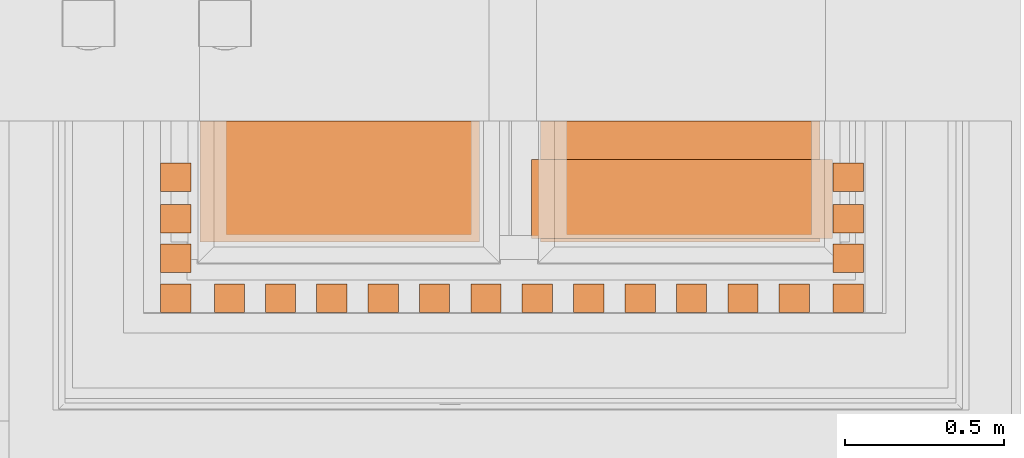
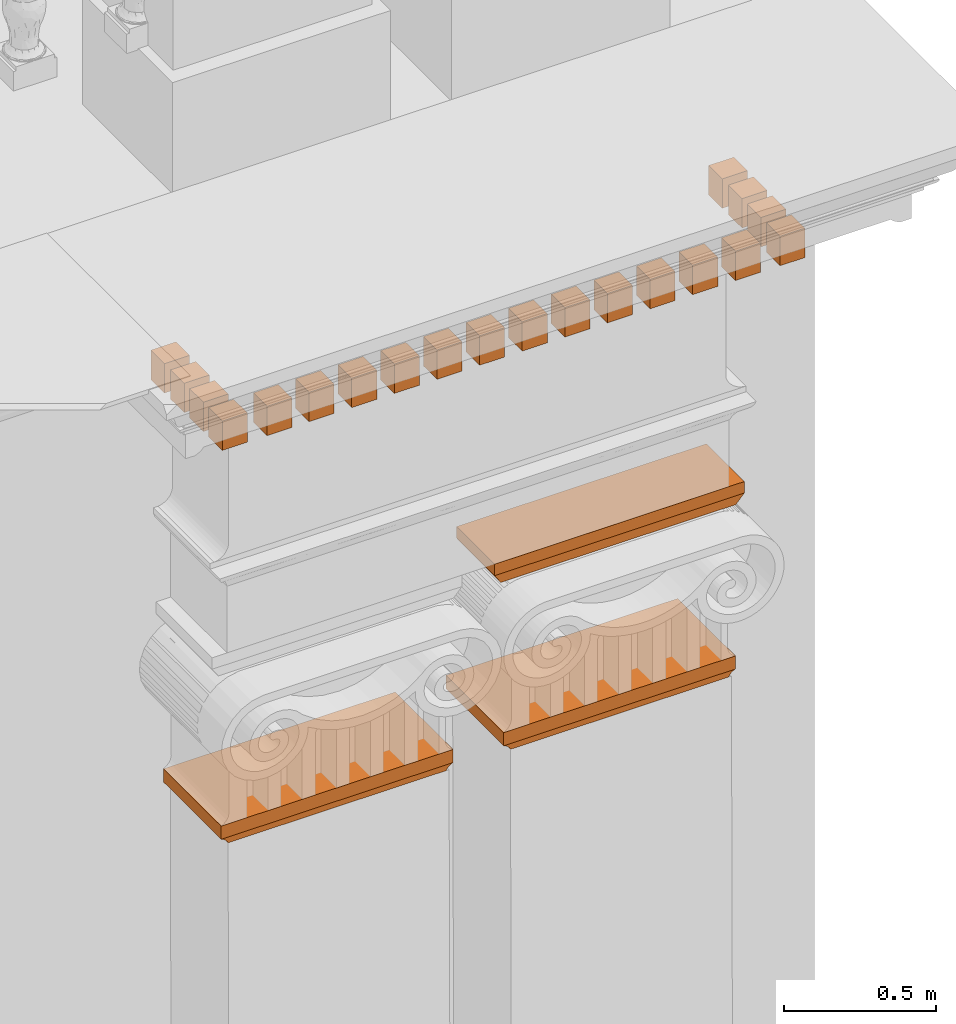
# One storey, part 17 of 44: 26 proxies.
"""IFC2X3 building model written with IfcOpenShell, lengths in metres."""

from ifc_helpers import new_model, entity, si_unit, converted_unit, derived_unit, direction, frame, frame_2d, origin, place, context, subcontext, project, spatial, polyline, circle_curve, parameter, trimmed, segment, composite_curve, rectangle, outline, extrude, material, element, save


model = new_model("IFC2X3")

# Units and contexts
model_context = context("Model", 3, precision=1e-05, world=origin(), true_north=direction((6.12303176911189e-17, 1.0)))
body_context = subcontext(model_context, "Body", "Model", "MODEL_VIEW")
ifc_project = project(units=[si_unit("LENGTHUNIT", "METRE"), si_unit("AREAUNIT", "SQUARE_METRE"), si_unit("VOLUMEUNIT", "CUBIC_METRE"), converted_unit("PLANEANGLEUNIT", "DEGREE", entity("IfcRatioMeasure", 0.0174532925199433), si_unit("PLANEANGLEUNIT", "RADIAN"), dimensions=[0, 0, 0, 0, 0, 0, 0]), si_unit("MASSUNIT", "GRAM", prefix="KILO"), derived_unit("MASSDENSITYUNIT", [(si_unit("MASSUNIT", "GRAM", prefix="KILO"), 1), (si_unit("LENGTHUNIT", "METRE"), -3)]), si_unit("TIMEUNIT", "SECOND"), si_unit("FREQUENCYUNIT", "HERTZ"), si_unit("THERMODYNAMICTEMPERATUREUNIT", "DEGREE_CELSIUS"), derived_unit("THERMALTRANSMITTANCEUNIT", [(si_unit("MASSUNIT", "GRAM", prefix="KILO"), 1), (si_unit("THERMODYNAMICTEMPERATUREUNIT", "KELVIN"), -1), (si_unit("TIMEUNIT", "SECOND"), -3)]), derived_unit("VOLUMETRICFLOWRATEUNIT", [(si_unit("LENGTHUNIT", "METRE"), 3), (si_unit("TIMEUNIT", "SECOND"), -1)]), si_unit("ELECTRICCURRENTUNIT", "AMPERE"), si_unit("ELECTRICVOLTAGEUNIT", "VOLT"), si_unit("POWERUNIT", "WATT"), si_unit("FORCEUNIT", "NEWTON", prefix="KILO"), si_unit("ILLUMINANCEUNIT", "LUX"), si_unit("LUMINOUSFLUXUNIT", "LUMEN"), si_unit("LUMINOUSINTENSITYUNIT", "CANDELA"), derived_unit("USERDEFINED", [(si_unit("MASSUNIT", "GRAM", prefix="KILO"), -1), (si_unit("LENGTHUNIT", "METRE"), -2), (si_unit("TIMEUNIT", "SECOND"), 3), (si_unit("LUMINOUSFLUXUNIT", "LUMEN"), 1)]), derived_unit("LINEARVELOCITYUNIT", [(si_unit("LENGTHUNIT", "METRE"), 1), (si_unit("TIMEUNIT", "SECOND"), -1)]), si_unit("PRESSUREUNIT", "PASCAL"), derived_unit("USERDEFINED", [(si_unit("LENGTHUNIT", "METRE"), -2), (si_unit("MASSUNIT", "GRAM", prefix="KILO"), 1), (si_unit("TIMEUNIT", "SECOND"), -2)])], contexts=[model_context])

# Site, building, storey
site_placement = place(None, origin())
site = spatial("IfcSite", under=ifc_project, at=site_placement, Name="Default", CompositionType="ELEMENT")
building_placement = place(site_placement, origin())
building = spatial("IfcBuilding", under=site, at=building_placement, CompositionType="ELEMENT")
storey_placement = place(building_placement, origin())
storey = spatial("IfcBuildingStorey", under=building, at=storey_placement, Name="Livello 1", CompositionType="ELEMENT", Elevation=0.0)

# Proxies
proxy_1_placement = place(storey_placement, frame((10.5087977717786, 0.883372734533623, 20.9489268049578)))
element("IfcBuildingElementProxy", 1, at=proxy_1_placement, inside=storey, Name="Stratigrafia", context=body_context, shape_type="SweptSolid", body=[
    extrude(outline(composite_curve([segment(polyline([(-0.123759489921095, 0.395360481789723), (0.101421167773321, -0.401671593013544)]), True, "CONTINUOUS"), segment(trimmed(circle_curve(frame_2d((0.096890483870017, -0.441245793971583), x_axis=(0.85216090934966, 0.523279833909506)), 0.0398327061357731), [parameter(1.99993278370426e-11)], [parameter(51.9163679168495)], True, "PARAMETER"), False, "CONTINUOUS"), segment(polyline([(0.130834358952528, -0.420402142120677), (-0.108496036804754, 0.426713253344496)]), True, "CONTINUOUS"), segment(trimmed(circle_curve(frame_2d((-0.148328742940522, 0.426713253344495), x_axis=(1.0, 0.0)), 0.039832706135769), [parameter(308.083632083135)], [parameter(359.999999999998)], True, "PARAMETER"), False, "CONTINUOUS")], self_intersect=False)), frame((0.441732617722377, 0.0, 0.0132016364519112), z_axis=(0.0, -1.0, 0.0), x_axis=(0.271881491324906, 0.0, 0.962330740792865)), (0.0, 0.0, -1.0), 0.38),
])
proxy_2_placement = place(storey_placement, frame((10.5103930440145, 0.883372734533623, 20.9737348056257)))
element("IfcBuildingElementProxy", 2, at=proxy_2_placement, inside=storey, Name="Stratigrafia", context=body_context, shape_type="SweptSolid", body=[
    extrude(rectangle(XDim=0.052818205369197, YDim=0.38, at=frame_2d((-1.2490009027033e-16, -2.16666962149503e-15), x_axis=(0.0, 1.0))), frame((0.0, 0.19, 0.0264091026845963), z_axis=(1.0, 0.0, 0.0), x_axis=(0.0, 1.0, 0.0)), (0.0, 0.0, 1.0), 0.880274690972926),
])
proxy_3_placement = place(storey_placement, frame((9.43692277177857, 0.883372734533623, 20.9489268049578)))
element("IfcBuildingElementProxy", 3, at=proxy_3_placement, inside=storey, Name="Stratigrafia", context=body_context, shape_type="SweptSolid", body=[
    extrude(outline(composite_curve([segment(polyline([(-0.123759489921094, 0.395360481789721), (0.101421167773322, -0.401671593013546)]), True, "CONTINUOUS"), segment(trimmed(circle_curve(frame_2d((0.0968904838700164, -0.441245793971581), x_axis=(0.85216090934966, 0.523279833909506)), 0.0398327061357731), [parameter(1.99993278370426e-11)], [parameter(51.9163679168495)], True, "PARAMETER"), False, "CONTINUOUS"), segment(polyline([(0.130834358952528, -0.420402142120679), (-0.108496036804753, 0.426713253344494)]), True, "CONTINUOUS"), segment(trimmed(circle_curve(frame_2d((-0.148328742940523, 0.426713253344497), x_axis=(1.0, 0.0)), 0.039832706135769), [parameter(308.083632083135)], [parameter(359.999999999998)], True, "PARAMETER"), False, "CONTINUOUS")], self_intersect=False)), frame((0.441732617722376, 0.0, 0.0132016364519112), z_axis=(0.0, -1.0, 0.0), x_axis=(0.271881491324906, 0.0, 0.962330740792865)), (0.0, 0.0, -1.0), 0.38),
])
proxy_4_placement = place(storey_placement, frame((9.43851804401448, 0.883372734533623, 20.9737348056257)))
element("IfcBuildingElementProxy", 4, at=proxy_4_placement, inside=storey, Name="Stratigrafia", context=body_context, shape_type="SweptSolid", body=[
    extrude(rectangle(XDim=0.052818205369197, YDim=0.38, at=frame_2d((-1.2490009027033e-16, -2.16666962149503e-15), x_axis=(0.0, 1.0))), frame((0.0, 0.19, 0.0264091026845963), z_axis=(1.0, 0.0, 0.0), x_axis=(0.0, 1.0, 0.0)), (0.0, 0.0, 1.0), 0.880274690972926),
])
proxy_5_placement = place(storey_placement, frame((10.4818429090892, 0.893372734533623, 21.6252055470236)))
element("IfcBuildingElementProxy", 5, at=proxy_5_placement, inside=storey, Name="Stratigrafia", context=body_context, shape_type="SweptSolid", body=[
    extrude(outline(polyline([(-0.44415894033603, -0.0175491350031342), (0.448323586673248, -0.0175491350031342), (0.472017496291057, 0.0175491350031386), (-0.476182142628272, 0.0175491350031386), (-0.44415894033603, -0.0175491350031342)])), frame((0.472017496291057, 0.0, 0.0175491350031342), z_axis=(0.0, 1.0, 0.0), x_axis=(-1.0, 0.0, 0.0)), (0.0, 0.0, 1.0), 0.25),
])
proxy_6_placement = place(storey_placement, frame((10.4818429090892, 0.893372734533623, 21.6603038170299)))
element("IfcBuildingElementProxy", 6, at=proxy_6_placement, inside=storey, Name="Stratigrafia", context=body_context, shape_type="SweptSolid", body=[
    extrude(rectangle(XDim=0.0459747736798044, YDim=0.25, at=frame_2d((0.0, 0.0), x_axis=(0.0, 1.0))), frame((0.0, 0.125, 0.0229873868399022), z_axis=(1.0, 0.0, 0.0), x_axis=(0.0, 1.0, 0.0)), (0.0, 0.0, 1.0), 0.948246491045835),
])
ifc_material = material(Name="Piperno")
for number, where in (
    (7, (11.2617545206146, 0.661139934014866, 22.7125584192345)),
    (8, (11.0999755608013, 0.661139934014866, 22.7125584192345)),
    (9, (10.9381966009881, 0.661139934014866, 22.7125584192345)),
    (10, (10.7764176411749, 0.661139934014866, 22.7125584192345)),
    (11, (10.6146386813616, 0.661139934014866, 22.7125584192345)),
    (12, (10.4528597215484, 0.661139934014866, 22.7125584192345)),
    (13, (10.2910807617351, 0.661139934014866, 22.7125584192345)),
    (14, (10.1293018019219, 0.661139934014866, 22.7125584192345)),
    (15, (9.96752284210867, 0.661139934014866, 22.7125584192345)),
    (16, (9.80574388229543, 0.661139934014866, 22.7125584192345)),
    (17, (9.6439649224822, 0.661139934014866, 22.7125584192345)),
    (18, (9.4839608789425, 0.661139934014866, 22.7125584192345)),
    (19, (9.31439690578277, 0.661139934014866, 22.7125584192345)),
    (20, (11.4316533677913, 0.661139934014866, 22.7125584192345)),
):
    element("IfcBuildingElementProxy", number, at=place(storey_placement, frame(where)), inside=storey, material=ifc_material, Name="Stratigrafia", context=body_context, shape_type="SweptSolid", body=[
        extrude(rectangle(XDim=0.117802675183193, YDim=0.0898173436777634, at=frame_2d((6.59194920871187e-17, 0.0), x_axis=(0.0, 1.0))), frame((0.0, 0.0449086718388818, 0.0589013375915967), z_axis=(1.0, 0.0, 0.0), x_axis=(0.0, 1.0, 0.0)), (0.0, 0.0, 1.0), 0.0951819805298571),
    ])
proxy_7_placement = place(storey_placement, frame((11.4316533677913, 0.786139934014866, 22.7125584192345)))
element("IfcBuildingElementProxy", 21, at=proxy_7_placement, inside=storey, material=ifc_material, Name="Stratigrafia", context=body_context, shape_type="SweptSolid", body=[
    extrude(rectangle(XDim=0.117802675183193, YDim=0.0898173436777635, at=frame_2d((-6.59194920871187e-17, 0.0), x_axis=(0.0, 1.0))), frame((0.0, 0.0449086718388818, 0.0589013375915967), z_axis=(1.0, 0.0, 0.0), x_axis=(0.0, 1.0, 0.0)), (0.0, 0.0, 1.0), 0.0951819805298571),
])
proxy_8_placement = place(storey_placement, frame((11.4316533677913, 0.911139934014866, 22.7125584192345)))
element("IfcBuildingElementProxy", 22, at=proxy_8_placement, inside=storey, material=ifc_material, Name="Stratigrafia", context=body_context, shape_type="SweptSolid", body=[
    extrude(rectangle(XDim=0.117802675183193, YDim=0.0898173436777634, at=frame_2d((-6.59194920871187e-17, 0.0), x_axis=(0.0, 1.0))), frame((0.0, 0.0449086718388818, 0.0589013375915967), z_axis=(1.0, 0.0, 0.0), x_axis=(0.0, 1.0, 0.0)), (0.0, 0.0, 1.0), 0.0951819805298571),
])
proxy_9_placement = place(storey_placement, frame((11.4316533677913, 1.04113993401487, 22.7125584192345)))
element("IfcBuildingElementProxy", 23, at=proxy_9_placement, inside=storey, material=ifc_material, Name="Stratigrafia", context=body_context, shape_type="SweptSolid", body=[
    extrude(rectangle(XDim=0.117802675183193, YDim=0.0898173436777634, at=frame_2d((-6.59194920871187e-17, 0.0), x_axis=(0.0, 1.0))), frame((0.0, 0.0449086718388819, 0.0589013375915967), z_axis=(1.0, 0.0, 0.0), x_axis=(0.0, 1.0, 0.0)), (0.0, 0.0, 1.0), 0.0951819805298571),
])
proxy_10_placement = place(storey_placement, frame((9.31439690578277, 0.786139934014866, 22.7125584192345)))
element("IfcBuildingElementProxy", 24, at=proxy_10_placement, inside=storey, material=ifc_material, Name="Stratigrafia", context=body_context, shape_type="SweptSolid", body=[
    extrude(rectangle(XDim=0.117802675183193, YDim=0.0898173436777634, at=frame_2d((6.59194920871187e-17, 0.0), x_axis=(0.0, 1.0))), frame((0.0, 0.0449086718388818, 0.0589013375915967), z_axis=(1.0, 0.0, 0.0), x_axis=(0.0, 1.0, 0.0)), (0.0, 0.0, 1.0), 0.0951819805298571),
])
proxy_11_placement = place(storey_placement, frame((9.31439690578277, 0.911139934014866, 22.7125584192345)))
element("IfcBuildingElementProxy", 25, at=proxy_11_placement, inside=storey, material=ifc_material, Name="Stratigrafia", context=body_context, shape_type="SweptSolid", body=[
    extrude(rectangle(XDim=0.117802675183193, YDim=0.0898173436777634, at=frame_2d((-6.59194920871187e-17, 0.0), x_axis=(0.0, 1.0))), frame((0.0, 0.0449086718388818, 0.0589013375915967), z_axis=(1.0, 0.0, 0.0), x_axis=(0.0, 1.0, 0.0)), (0.0, 0.0, 1.0), 0.0951819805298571),
])
proxy_12_placement = place(storey_placement, frame((9.31439690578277, 1.04113993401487, 22.7125584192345)))
element("IfcBuildingElementProxy", 26, at=proxy_12_placement, inside=storey, material=ifc_material, Name="Stratigrafia", context=body_context, shape_type="SweptSolid", body=[
    extrude(rectangle(XDim=0.117802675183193, YDim=0.0898173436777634, at=frame_2d((-6.59194920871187e-17, 0.0), x_axis=(0.0, 1.0))), frame((0.0, 0.0449086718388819, 0.0589013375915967), z_axis=(1.0, 0.0, 0.0), x_axis=(0.0, 1.0, 0.0)), (0.0, 0.0, 1.0), 0.0951819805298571),
])

save(model, "model.ifc")
